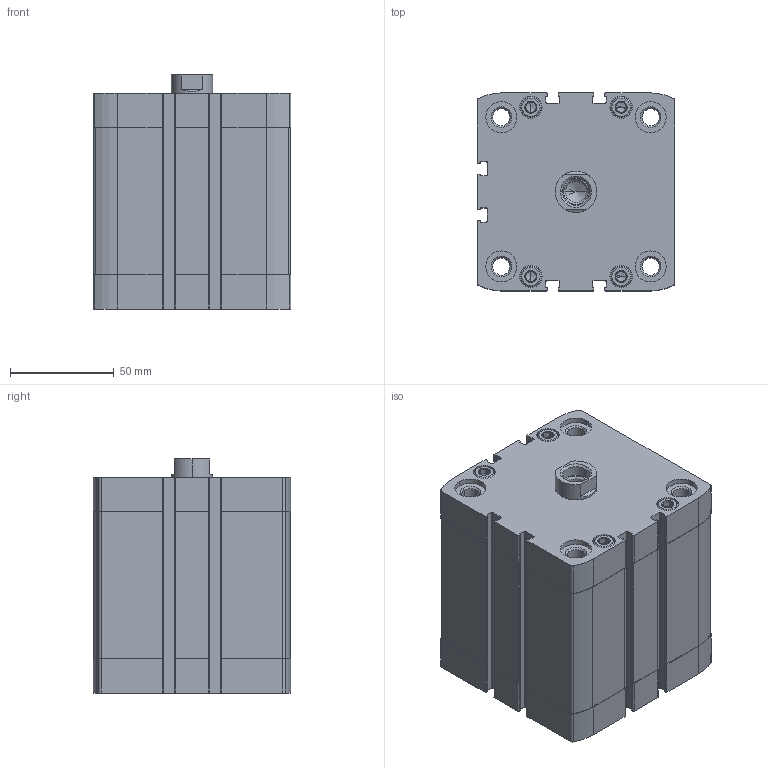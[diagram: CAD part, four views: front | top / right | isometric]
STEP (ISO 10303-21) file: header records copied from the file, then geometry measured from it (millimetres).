
FILE_DESCRIPTION (( 'STEP AP203' ), '1' );
FILE_NAME ('CCN80-50F.STEP', '2017-04-06T13:04:36', ( '' ), ( '' ), 'SwSTEP 2.0', 'SolidWorks 2016', '' );
FILE_SCHEMA (( 'CONFIG_CONTROL_DESIGN' ));
Length unit declared in the file: millimetre
Products named in the file (3): CCN-50---(Z); CCN-50_(KS); CCN80-50F
Assembly tree (2 placements, depth 2):
  CCN80-50F
    CCN-50---(Z)
    CCN-50_(KS)
Bounding box: 95.5 x 95.5 x 112.9 mm (x, y, z)
Volume: 651240.9 mm3; surface area: 128140.9 mm2
Topology: 2 solids, 2 shells, 487 faces, 1238 edges, 785 vertices
Faces by surface type: plane 227, cylinder 186, cone 74
Entity records: 15341 total; most frequent: CARTESIAN_POINT 3047, DIRECTION 2628, ORIENTED_EDGE 2440, EDGE_CURVE 1220, AXIS2_PLACEMENT_3D 982, VERTEX_POINT 785, LINE 664, VECTOR 664
